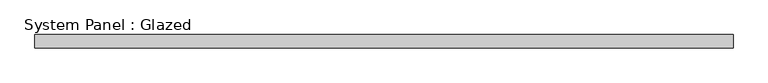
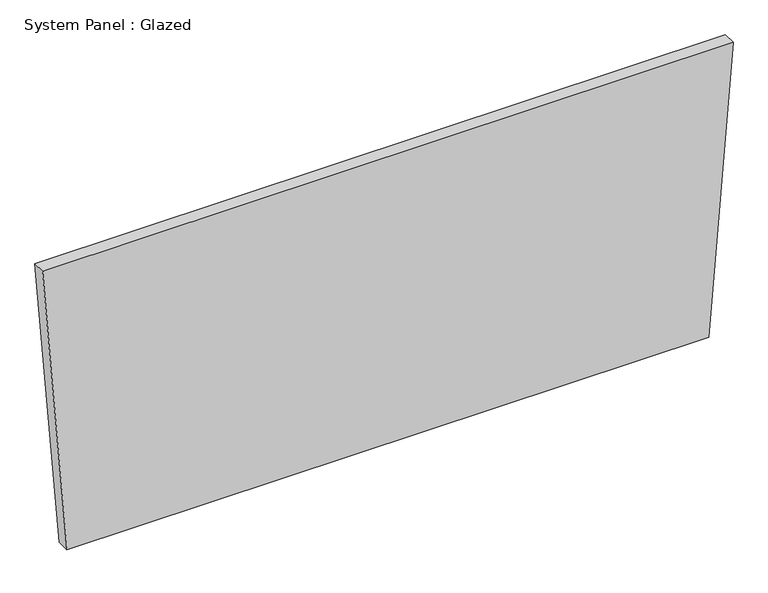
"""IFC4 building model written with IfcOpenShell, lengths in millimetres: plate geometry, System Panel : Glazed."""

from ifc_helpers import new_model, si_unit, frame, origin, place, context, project, spatial, polyline, outline, extrude, source, transform, mapped, element, save


def system_panel_glazed_6b8754b1(model_context):
    return source(origin(), model_context, "Body", "SweptSolid", [
        extrude(outline(polyline([(0.0, -616.4008324), (0.0, 616.4008324), (582.247707, 663.1116973), (582.247707, -663.1116973), (0.0, -616.4008324)])), frame((0.0, 19.05, 0.0), z_axis=(0.0, 1.0, 0.0), x_axis=(0.0, 0.0, 1.0)), (0.0, 0.0, 1.0), 25.4),
    ])


if __name__ == "__main__":
    model = new_model("IFC4")
    model_context = context("Model", 3, world=origin())
    ifc_project = project(units=[si_unit("LENGTHUNIT", "METRE", prefix="MILLI")], contexts=[model_context])
    site = spatial("IfcSite", under=ifc_project)
    building = spatial("IfcBuilding", under=site)
    placement = place(None, origin())
    system_panel_glazed_shape = system_panel_glazed_6b8754b1(model_context)
    element("IfcPlate", 1, ObjectType="System Panel : Glazed", at=placement, inside=building, context=model_context, shape_type="MappedRepresentation", body=[
        mapped(system_panel_glazed_shape, transform((0.0, 0.0, 0.0), x_axis=(1.0, 0.0, 0.0), y_axis=(0.0, 1.0, 0.0), z_axis=(0.0, 0.0, 1.0))),
    ])
    save(model, "model.ifc")
